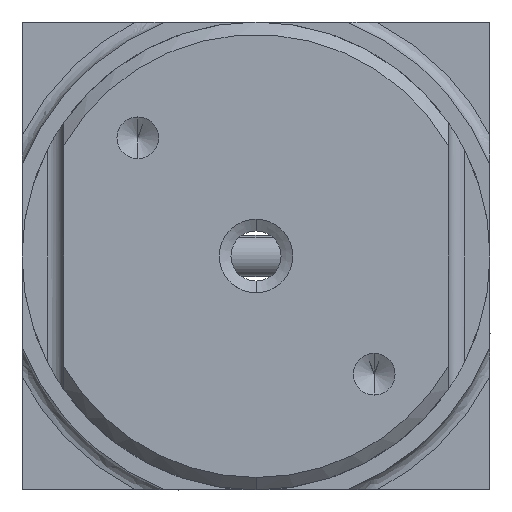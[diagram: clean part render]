
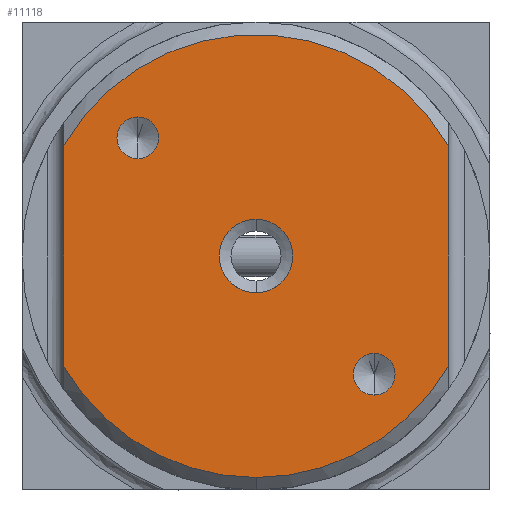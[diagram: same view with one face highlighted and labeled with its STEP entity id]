
A CAD part, front view. The second image highlights one B-rep face of the part: STEP entity #11118.
In plain terms, the highlighted planar face has unit normal (0, -1, 0).
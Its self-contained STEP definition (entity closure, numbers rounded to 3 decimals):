
#427 = EDGE_LOOP ( 'NONE', ( #12884, #15269 ) ) ;
#577 = VERTEX_POINT ( 'NONE', #736 ) ;
#720 = EDGE_CURVE ( 'NONE', #11128, #21340, #26240, .T. ) ;
#736 = CARTESIAN_POINT ( 'NONE',  ( -50.599, -85.585, 136.838 ) ) ;
#1072 = CARTESIAN_POINT ( 'NONE',  ( -4.599, -85.585, 136.838 ) ) ;
#1144 = CIRCLE ( 'NONE', #1339, 4.4 ) ;
#1339 = AXIS2_PLACEMENT_3D ( 'NONE', #8420, #24537, #10696 ) ;
#1593 = CIRCLE ( 'NONE', #9456, 2.5 ) ;
#1600 = VERTEX_POINT ( 'NONE', #3141 ) ;
#1827 = ORIENTED_EDGE ( 'NONE', *, *, #7456, .T. ) ;
#2057 = DIRECTION ( 'NONE',  ( 0., 0., 1. ) ) ;
#2772 = CARTESIAN_POINT ( 'NONE',  ( -13.457, -85.585, 133.358 ) ) ;
#2851 = VERTEX_POINT ( 'NONE', #5127 ) ;
#3130 = CARTESIAN_POINT ( 'NONE',  ( -41.741, -85.585, 164.142 ) ) ;
#3141 = CARTESIAN_POINT ( 'NONE',  ( -23.199, -85.585, 150. ) ) ;
#3231 = CIRCLE ( 'NONE', #7555, 2.5 ) ;
#3504 = CARTESIAN_POINT ( 'NONE',  ( -50.599, -85.585, 163.162 ) ) ;
#3683 = FACE_BOUND ( 'NONE', #17200, .T. ) ;
#4529 = EDGE_CURVE ( 'NONE', #21105, #9717, #3231, .T. ) ;
#4732 = CIRCLE ( 'NONE', #14190, 26.5 ) ;
#4803 = EDGE_LOOP ( 'NONE', ( #7227, #11156, #1827, #29255, #28810 ) ) ;
#5127 = CARTESIAN_POINT ( 'NONE',  ( -27.599, -85.585, 123.5 ) ) ;
#5325 = AXIS2_PLACEMENT_3D ( 'NONE', #7115, #23228, #9432 ) ;
#5425 = DIRECTION ( 'NONE',  ( 0., 0., 1. ) ) ;
#6691 = CARTESIAN_POINT ( 'NONE',  ( -4.599, -85.585, 150. ) ) ;
#7115 = CARTESIAN_POINT ( 'NONE',  ( -13.457, -85.585, 135.858 ) ) ;
#7227 = ORIENTED_EDGE ( 'NONE', *, *, #26786, .T. ) ;
#7379 = CARTESIAN_POINT ( 'NONE',  ( -13.457, -85.585, 138.358 ) ) ;
#7456 = EDGE_CURVE ( 'NONE', #2851, #11128, #20921, .T. ) ;
#7555 = AXIS2_PLACEMENT_3D ( 'NONE', #23338, #9533, #25671 ) ;
#7778 = PLANE ( 'NONE',  #23225 ) ;
#7846 = VECTOR ( 'NONE', #13603, 1000. ) ;
#7871 = DIRECTION ( 'NONE',  ( 0., -1., 0. ) ) ;
#8420 = CARTESIAN_POINT ( 'NONE',  ( -27.599, -85.585, 150. ) ) ;
#8509 = CARTESIAN_POINT ( 'NONE',  ( -27.599, -85.585, 150. ) ) ;
#8788 = EDGE_LOOP ( 'NONE', ( #9888, #29795 ) ) ;
#9369 = VERTEX_POINT ( 'NONE', #3504 ) ;
#9432 = DIRECTION ( 'NONE',  ( 0., 0., 1. ) ) ;
#9456 = AXIS2_PLACEMENT_3D ( 'NONE', #3130, #19170, #5425 ) ;
#9533 = DIRECTION ( 'NONE',  ( 0., 1., 0. ) ) ;
#9561 = EDGE_CURVE ( 'NONE', #11192, #11300, #14924, .T. ) ;
#9717 = VERTEX_POINT ( 'NONE', #7379 ) ;
#9740 = DIRECTION ( 'NONE',  ( 0., -1., 0. ) ) ;
#9888 = ORIENTED_EDGE ( 'NONE', *, *, #10007, .T. ) ;
#10007 = EDGE_CURVE ( 'NONE', #9717, #21105, #10528, .T. ) ;
#10528 = CIRCLE ( 'NONE', #5325, 2.5 ) ;
#10644 = CARTESIAN_POINT ( 'NONE',  ( -41.741, -85.585, 161.642 ) ) ;
#10696 = DIRECTION ( 'NONE',  ( -1., 0., 0. ) ) ;
#10803 = DIRECTION ( 'NONE',  ( 0., 0., -1. ) ) ;
#11118 = ADVANCED_FACE ( 'NONE', ( #15859, #3683, #24198, #27448 ), #7778, .T. ) ;
#11128 = VERTEX_POINT ( 'NONE', #1072 ) ;
#11156 = ORIENTED_EDGE ( 'NONE', *, *, #15727, .T. ) ;
#11192 = VERTEX_POINT ( 'NONE', #19526 ) ;
#11300 = VERTEX_POINT ( 'NONE', #10644 ) ;
#11400 = DIRECTION ( 'NONE',  ( 0., 1., 0. ) ) ;
#12884 = ORIENTED_EDGE ( 'NONE', *, *, #26705, .T. ) ;
#13598 = CARTESIAN_POINT ( 'NONE',  ( -27.599, -85.585, 150. ) ) ;
#13603 = DIRECTION ( 'NONE',  ( 0., 0., 1. ) ) ;
#13914 = CARTESIAN_POINT ( 'NONE',  ( -31.999, -85.585, 150. ) ) ;
#13927 = ORIENTED_EDGE ( 'NONE', *, *, #24961, .T. ) ;
#14190 = AXIS2_PLACEMENT_3D ( 'NONE', #13598, #29773, #15911 ) ;
#14924 = CIRCLE ( 'NONE', #25549, 2.5 ) ;
#15269 = ORIENTED_EDGE ( 'NONE', *, *, #17250, .T. ) ;
#15435 = CARTESIAN_POINT ( 'NONE',  ( -50.599, -85.585, 150. ) ) ;
#15727 = EDGE_CURVE ( 'NONE', #577, #2851, #25335, .T. ) ;
#15784 = DIRECTION ( 'NONE',  ( 0., 1., 0. ) ) ;
#15822 = LINE ( 'NONE', #15435, #21244 ) ;
#15823 = AXIS2_PLACEMENT_3D ( 'NONE', #25239, #11400, #27580 ) ;
#15859 = FACE_BOUND ( 'NONE', #427, .T. ) ;
#15911 = DIRECTION ( 'NONE',  ( 0., 0., -1. ) ) ;
#17200 = EDGE_LOOP ( 'NONE', ( #25242, #13927 ) ) ;
#17250 = EDGE_CURVE ( 'NONE', #1600, #25958, #18309, .T. ) ;
#17759 = CARTESIAN_POINT ( 'NONE',  ( -4.599, -85.585, 163.162 ) ) ;
#18309 = CIRCLE ( 'NONE', #15823, 4.4 ) ;
#18708 = AXIS2_PLACEMENT_3D ( 'NONE', #8509, #24629, #10803 ) ;
#18881 = EDGE_CURVE ( 'NONE', #21340, #9369, #4732, .T. ) ;
#19170 = DIRECTION ( 'NONE',  ( 0., 1., 0. ) ) ;
#19526 = CARTESIAN_POINT ( 'NONE',  ( -41.741, -85.585, 166.642 ) ) ;
#20921 = CIRCLE ( 'NONE', #22060, 26.5 ) ;
#21105 = VERTEX_POINT ( 'NONE', #2772 ) ;
#21244 = VECTOR ( 'NONE', #24723, 1000. ) ;
#21340 = VERTEX_POINT ( 'NONE', #17759 ) ;
#21651 = CARTESIAN_POINT ( 'NONE',  ( -4.599, -85.585, 176.818 ) ) ;
#22060 = AXIS2_PLACEMENT_3D ( 'NONE', #23548, #9740, #25874 ) ;
#23225 = AXIS2_PLACEMENT_3D ( 'NONE', #21651, #7871, #23990 ) ;
#23228 = DIRECTION ( 'NONE',  ( 0., 1., 0. ) ) ;
#23338 = CARTESIAN_POINT ( 'NONE',  ( -13.457, -85.585, 135.858 ) ) ;
#23548 = CARTESIAN_POINT ( 'NONE',  ( -27.599, -85.585, 150. ) ) ;
#23990 = DIRECTION ( 'NONE',  ( -1., 0., 0. ) ) ;
#24198 = FACE_BOUND ( 'NONE', #8788, .T. ) ;
#24537 = DIRECTION ( 'NONE',  ( 0., 1., 0. ) ) ;
#24629 = DIRECTION ( 'NONE',  ( 0., -1., 0. ) ) ;
#24723 = DIRECTION ( 'NONE',  ( 0., 0., -1. ) ) ;
#24961 = EDGE_CURVE ( 'NONE', #11300, #11192, #1593, .T. ) ;
#25239 = CARTESIAN_POINT ( 'NONE',  ( -27.599, -85.585, 150. ) ) ;
#25242 = ORIENTED_EDGE ( 'NONE', *, *, #9561, .T. ) ;
#25335 = CIRCLE ( 'NONE', #18708, 26.5 ) ;
#25549 = AXIS2_PLACEMENT_3D ( 'NONE', #29656, #15784, #2057 ) ;
#25671 = DIRECTION ( 'NONE',  ( 0., 0., 1. ) ) ;
#25874 = DIRECTION ( 'NONE',  ( 0., 0., -1. ) ) ;
#25958 = VERTEX_POINT ( 'NONE', #13914 ) ;
#26240 = LINE ( 'NONE', #6691, #7846 ) ;
#26705 = EDGE_CURVE ( 'NONE', #25958, #1600, #1144, .T. ) ;
#26786 = EDGE_CURVE ( 'NONE', #9369, #577, #15822, .T. ) ;
#27448 = FACE_OUTER_BOUND ( 'NONE', #4803, .T. ) ;
#27580 = DIRECTION ( 'NONE',  ( -1., 0., 0. ) ) ;
#28810 = ORIENTED_EDGE ( 'NONE', *, *, #18881, .T. ) ;
#29255 = ORIENTED_EDGE ( 'NONE', *, *, #720, .T. ) ;
#29656 = CARTESIAN_POINT ( 'NONE',  ( -41.741, -85.585, 164.142 ) ) ;
#29773 = DIRECTION ( 'NONE',  ( 0., -1., 0. ) ) ;
#29795 = ORIENTED_EDGE ( 'NONE', *, *, #4529, .T. ) ;
